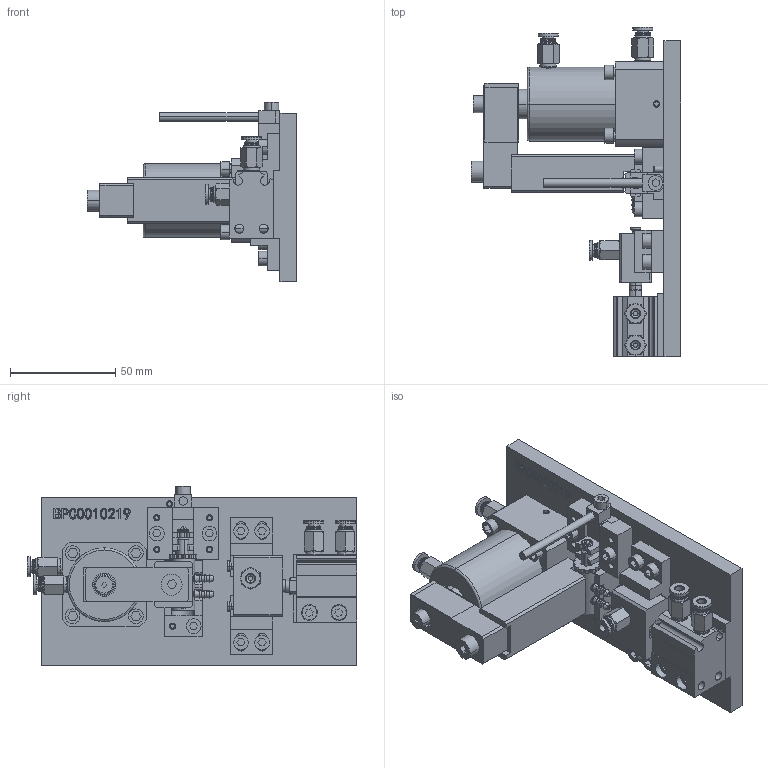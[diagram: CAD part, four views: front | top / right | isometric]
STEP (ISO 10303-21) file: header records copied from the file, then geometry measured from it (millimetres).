
FILE_DESCRIPTION(('CATIA V5 STEP Exchange'),'2;1');
FILE_NAME('C:\Users\liweiyong\Desktop\-----jiance zhiju.stp','2022-10-26T09:21:46+00:00',('none'),('none'),'CATIA Version 5 Release 20 GA (IN-10)','CATIA V5 STEP AP203','none');
FILE_SCHEMA(('CONFIG_CONTROL_DESIGN'));
Products named in the file (6): 产品2; 治具; 推拉把手; 产品1; BPC0010219-翘板速降阀分总成; 产品1_1
Assembly tree (59 placements, depth 5):
  产品2
    治具
      #66
      #52238
      #53070  x2
      #53664
      #59193
      #59826
      #60848  x2
      #61777
      #65527
      #66246  x5
      #69064
      #69087  x9
      #69332
      #69763
      #70146  x4
      #70574  x2
      #70972  x8
      #71445  x2
      #72041
      #72068
      #72504
      推拉把手
        #73053
        #73205
    产品1
      BPC0010219-翘板速降阀分总成
        #73669
        产品1_1
          #78249
          #80520  x2
      #80836
Bounding box: 99.5 x 156.6 x 85.25 mm (x, y, z)
Volume: 271092.3 mm3; surface area: 110830.3 mm2
Topology: 54 solids, 57 shells, 3075 faces, 8514 edges, 5682 vertices
Faces by surface type: plane 2186, cylinder 512, cone 230, torus 131, sphere 12, revolution 4
Entity records: 80743 total; most frequent: CARTESIAN_POINT 17069, ORIENTED_EDGE 14200, DIRECTION 11331, EDGE_CURVE 6854, VECTOR 5712, LINE 5712, VERTEX_POINT 4575, AXIS2_PLACEMENT_3D 3224
